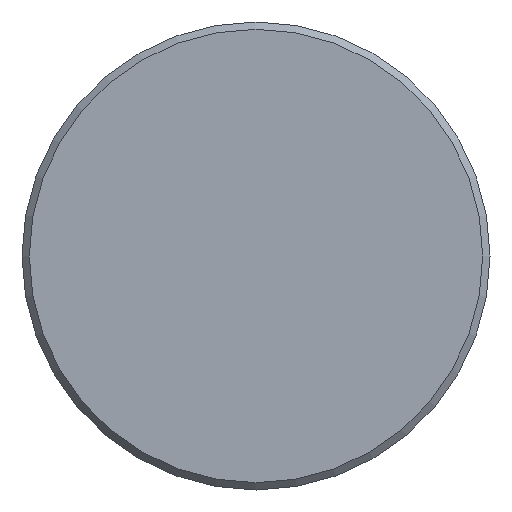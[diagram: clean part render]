
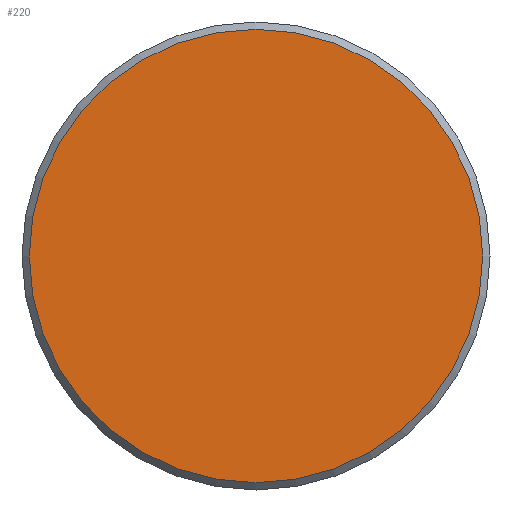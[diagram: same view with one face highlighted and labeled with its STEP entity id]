
A CAD part, front view. The second image highlights one B-rep face of the part: STEP entity #220.
In plain terms, the highlighted planar face has unit normal (0, -1, 0).
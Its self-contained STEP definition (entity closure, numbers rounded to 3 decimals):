
#220 = ADVANCED_FACE( '', ( #423 ), #424, .F. );
#423 = FACE_OUTER_BOUND( '', #619, .T. );
#424 = PLANE( '', #620 );
#619 = EDGE_LOOP( '', ( #979 ) );
#620 = AXIS2_PLACEMENT_3D( '', #980, #981, #982 );
#979 = ORIENTED_EDGE( '', *, *, #1204, .T. );
#980 = CARTESIAN_POINT( '', ( 15.5, 0., 0. ) );
#981 = DIRECTION( '', ( 0., 1., 0. ) );
#982 = DIRECTION( '', ( 0., 0., 1. ) );
#1204 = EDGE_CURVE( '', #1412, #1412, #1413, .T. );
#1412 = VERTEX_POINT( '', #1869 );
#1413 = CIRCLE( '', #1870, 15.5 );
#1869 = CARTESIAN_POINT( '', ( 0., 0., -15.5 ) );
#1870 = AXIS2_PLACEMENT_3D( '', #2040, #2041, #2042 );
#2040 = CARTESIAN_POINT( '', ( 0., 0., 0. ) );
#2041 = DIRECTION( '', ( 0., -1., 0. ) );
#2042 = DIRECTION( '', ( 0., 0., -1. ) );
